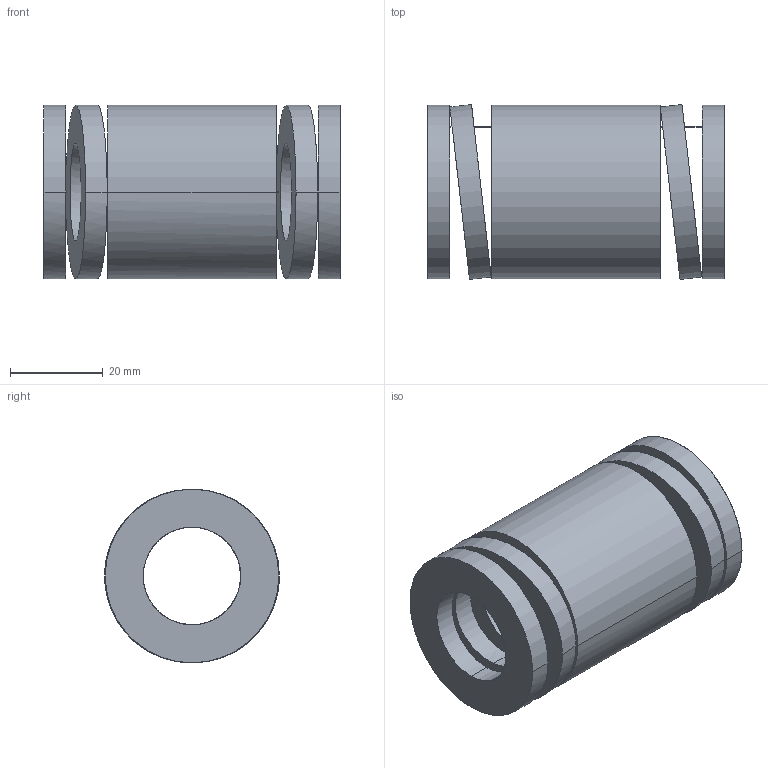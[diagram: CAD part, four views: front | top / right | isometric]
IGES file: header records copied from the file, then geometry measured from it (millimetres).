
Start section: START RECORD GO HERE.
Global section: file name: 392-B40-064.igs; native system: DASSAULT SYSTEMES CATIA V5 R20 - www.3ds.com; preprocessor: CATIA Version 5 Release 20 ; author: Utente; organization: NB04-ASUS; date: 20210813.132024; units: millimetre
Bounding box: 64 x 37.79 x 37.5 mm (x, y, z)
Surface area: 17710.4 mm2 (no closed solid volume)
Topology: 0 solids, 0 shells, 38 faces, 184 edges, 184 vertices
Faces by surface type: revolution 28, plane 10
